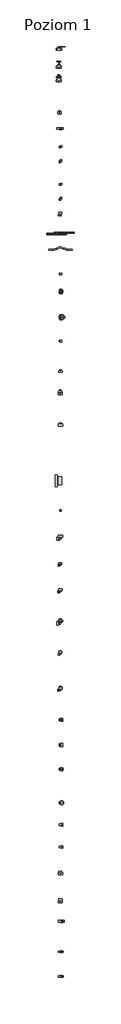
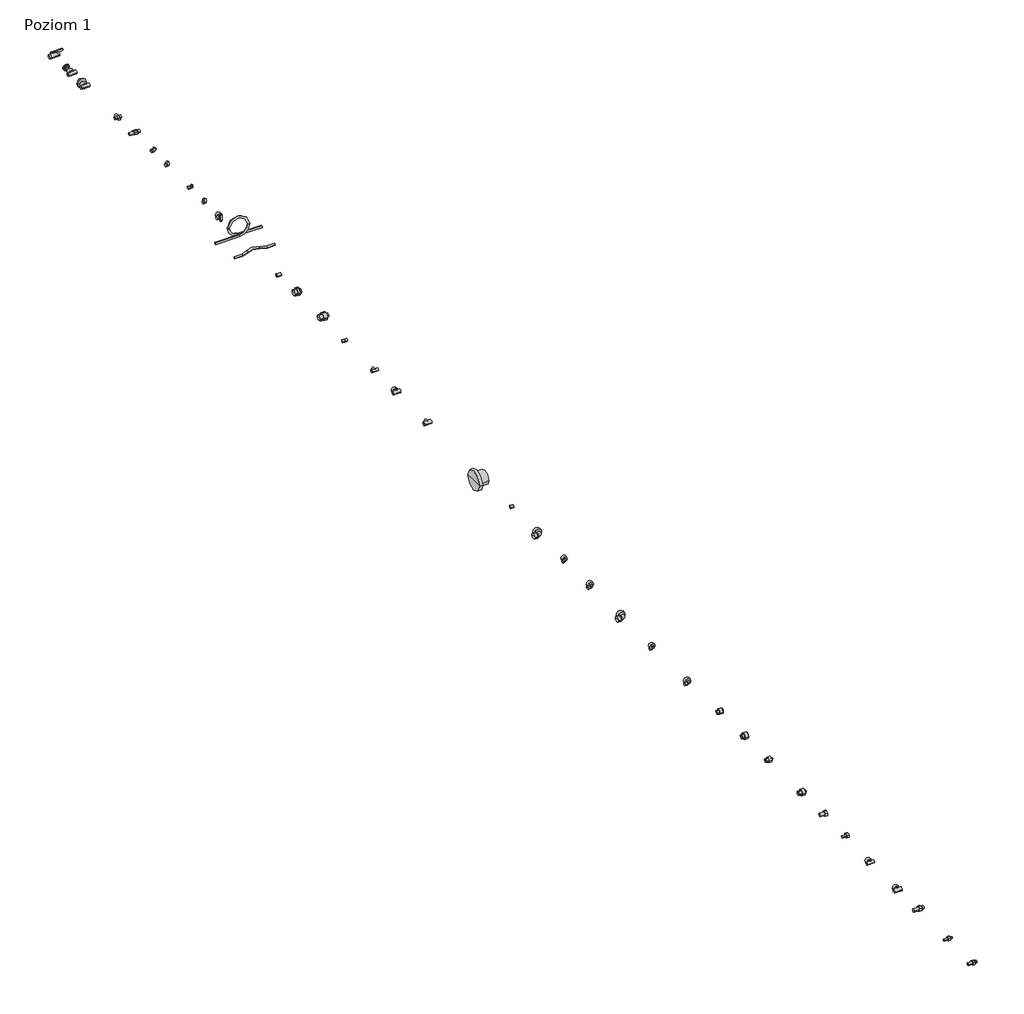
# One storey, incomplete: 35 pipe fittings, 3 valves.
"""IFC4 building model written with IfcOpenShell, lengths in millimetres."""

from ifc_helpers import new_model, si_unit, origin, place, context, project, spatial, transform, mapped, element, save
from components import pipe_fitting_f1c90eea, pipe_fitting_9086a7c6, pipe_fitting_2143d2fa, pipe_fitting_c30a6e07, pipe_fitting_eb173797, pipe_fitting_9455d8f2, pipe_fitting_613a564c, pipe_fitting_2de91ca1, pipe_fitting_89126435, pipe_fitting_2e6c01af, pipe_fitting_272f826c, pipe_fitting_fa644c43, pipe_fitting_fa37c8a6, pipe_fitting_0102d526, pipe_fitting_a57338f9, pipe_fitting_a43475a8, pipe_fitting_1dd2d78f, pipe_fitting_afdd248d, pipe_fitting_05d3e583, pipe_fitting_d33e2bb3, pipe_fitting_ecdcb8ec, pipe_fitting_666acf45, pipe_fitting_25df7227, pipe_fitting_1fe816a6, pipe_fitting_26aceb69, pipe_fitting_9ada75cd, pipe_fitting_8b290e61, pipe_fitting_83ee3611, pipe_fitting_663bc164, pipe_fitting_021c3819, pipe_fitting_e24b1700, pipe_fitting_a18f5325, pipe_fitting_e2bcef58, pipe_fitting_964f8dcf, pipe_fitting_8554a55d, valve_cd258e7f, valve_e2585b80, valve_2c2c3ae2

model = new_model("IFC4")

# Units and contexts
model_context = context("Model", 3, world=origin())
ifc_project = project(units=[si_unit("LENGTHUNIT", "METRE", prefix="MILLI")], contexts=[model_context])

# Site, building, storey
site = spatial("IfcSite", under=ifc_project)
building = spatial("IfcBuilding", under=site)
storey = spatial("IfcBuildingStorey", under=building, Name="Poziom 1", Elevation=0.0)

# Pipe fittings
placement = place(None, origin())
pipe_fitting_shape = pipe_fitting_f1c90eea(model_context)
element("IfcPipeFitting", 1, ObjectType="KAN-therm PP czwórnik : KAN-therm PP czwórnik", at=placement, inside=storey, context=model_context, shape_type="MappedRepresentation", body=[
    mapped(pipe_fitting_shape, transform((-10208.1900675, 20825.1129686, 0.0), x_axis=(1.0, 0.0, 0.0), y_axis=(0.0, 1.0, 0.0), z_axis=(0.0, 0.0, 1.0))),
])
pipe_fitting_2_shape = pipe_fitting_9086a7c6(model_context)
element("IfcPipeFitting", 2, ObjectType="KAN-therm PP holender : KAN-therm PP holender", at=placement, inside=storey, context=model_context, shape_type="MappedRepresentation", body=[
    mapped(pipe_fitting_2_shape, transform((-10227.5471954, 20612.1845622, 0.0), x_axis=(1.0, 0.0, 0.0), y_axis=(0.0, 1.0, 0.0), z_axis=(0.0, 0.0, 1.0))),
])
pipe_fitting_3_shape = pipe_fitting_2143d2fa(model_context)
element("IfcPipeFitting", 3, ObjectType="KAN-therm PP kolano 45 : KAN-therm PP kolano 45", at=placement, inside=storey, context=model_context, shape_type="MappedRepresentation", body=[
    mapped(pipe_fitting_3_shape, transform((-10199.5591276, 20366.994276, 0.0), x_axis=(1.0, 0.0, 0.0), y_axis=(0.0, 1.0, 0.0), z_axis=(0.0, 0.0, 1.0))),
])
pipe_fitting_4_shape = pipe_fitting_c30a6e07(model_context)
element("IfcPipeFitting", 4, ObjectType="KAN-therm PP kolano 90 : KAN-therm PP kolano 90", at=placement, inside=storey, context=model_context, shape_type="MappedRepresentation", body=[
    mapped(pipe_fitting_4_shape, transform((-10195.5591276, 20173.4229974, 0.0), x_axis=(1.0, 0.0, 0.0), y_axis=(0.0, 1.0, 0.0), z_axis=(0.0, 0.0, 1.0))),
])
pipe_fitting_5_shape = pipe_fitting_eb173797(model_context)
element("IfcPipeFitting", 5, ObjectType="KAN-therm PP kolano nyplowe 45 : KAN-therm PP kolano nyplowe 45", at=placement, inside=storey, context=model_context, shape_type="MappedRepresentation", body=[
    mapped(pipe_fitting_5_shape, transform((-10197.5591276, 19866.8878307, 0.0), x_axis=(1.0, 0.0, 0.0), y_axis=(0.0, 1.0, 0.0), z_axis=(0.0, 0.0, 1.0))),
])
pipe_fitting_6_shape = pipe_fitting_9455d8f2(model_context)
element("IfcPipeFitting", 6, ObjectType="KAN-therm PP kolano nyplowe 90 : KAN-therm PP kolano nyplowe 90", at=placement, inside=storey, context=model_context, shape_type="MappedRepresentation", body=[
    mapped(pipe_fitting_6_shape, transform((-10195.5591276, 19670.0903641, 0.0), x_axis=(1.0, 0.0, 0.0), y_axis=(0.0, 1.0, 0.0), z_axis=(0.0, 0.0, 1.0))),
])
pipe_fitting_7_shape = pipe_fitting_613a564c(model_context)
element("IfcPipeFitting", 7, ObjectType="KAN-therm PP kolano z wieszakiem : KAN-therm PP kolano z wieszakiem", at=placement, inside=storey, context=model_context, shape_type="MappedRepresentation", body=[
    mapped(pipe_fitting_7_shape, transform((-10195.5591276, 19463.6143337, 0.0), x_axis=(1.0, 0.0, 0.0), y_axis=(0.0, 1.0, 0.0), z_axis=(0.0, 0.0, 1.0))),
])
pipe_fitting_8_shape = pipe_fitting_2de91ca1(model_context)
element("IfcPipeFitting", 8, ObjectType="KAN-therm PP kompensacja : KAN-therm PP kompensacja", at=placement, inside=storey, context=model_context, shape_type="MappedRepresentation", body=[
    mapped(pipe_fitting_8_shape, transform((-10195.5591276, 19206.7454835, 0.0), x_axis=(1.0, 0.0, 0.0), y_axis=(0.0, 1.0, 0.0), z_axis=(0.0, 0.0, 1.0))),
])
pipe_fitting_9_shape = pipe_fitting_89126435(model_context)
element("IfcPipeFitting", 9, ObjectType="KAN-therm PP mijanka : KAN-therm PP mijanka", at=placement, inside=storey, context=model_context, shape_type="MappedRepresentation", body=[
    mapped(pipe_fitting_9_shape, transform((-10195.5591276, 18999.0432651, 0.0), x_axis=(1.0, 0.0, 0.0), y_axis=(0.0, 1.0, 0.0), z_axis=(0.0, 0.0, 1.0))),
])
pipe_fitting_10_shape = pipe_fitting_2e6c01af(model_context)
element("IfcPipeFitting", 10, ObjectType="KAN-therm PP mufa gw z sześciokątem : KAN-therm PP mufa gw z sześciokątem", at=placement, inside=storey, context=model_context, shape_type="MappedRepresentation", body=[
    mapped(pipe_fitting_10_shape, transform((-10195.5591276, 18442.2725897, 0.0), x_axis=(1.0, 0.0, 0.0), y_axis=(0.0, 1.0, 0.0), z_axis=(0.0, 0.0, 1.0))),
])
pipe_fitting_11_shape = pipe_fitting_272f826c(model_context)
element("IfcPipeFitting", 11, ObjectType="KAN-therm PP mufa gz z sześciokątem : KAN-therm PP mufa gz z sześciokątem", at=placement, inside=storey, context=model_context, shape_type="MappedRepresentation", body=[
    mapped(pipe_fitting_11_shape, transform((-10195.5591276, 18102.27755, 0.0), x_axis=(1.0, 0.0, 0.0), y_axis=(0.0, 1.0, 0.0), z_axis=(0.0, 0.0, 1.0))),
])
pipe_fitting_12_shape = pipe_fitting_fa644c43(model_context)
element("IfcPipeFitting", 12, ObjectType="KAN-therm PP mufa : KAN-therm PP mufa", at=placement, inside=storey, context=model_context, shape_type="MappedRepresentation", body=[
    mapped(pipe_fitting_12_shape, transform((-10195.5591276, 18675.6017895, 0.0), x_axis=(1.0, 0.0, 0.0), y_axis=(0.0, 1.0, 0.0), z_axis=(0.0, 0.0, 1.0))),
])
pipe_fitting_13_shape = pipe_fitting_fa37c8a6(model_context)
element("IfcPipeFitting", 13, ObjectType="KAN-therm PP trojnik gz : KAN-therm PP trojnik gz", at=placement, inside=storey, context=model_context, shape_type="MappedRepresentation", body=[
    mapped(pipe_fitting_13_shape, transform((-10195.5591276, 17085.3324071, 0.0), x_axis=(1.0, 0.0, 0.0), y_axis=(0.0, 1.0, 0.0), z_axis=(0.0, 0.0, 1.0))),
])
pipe_fitting_14_shape = pipe_fitting_0102d526(model_context)
element("IfcPipeFitting", 14, ObjectType="KAN-therm PP trojnik redukcyjny : KAN-therm PP trojnik redukcyjny", at=placement, inside=storey, context=model_context, shape_type="MappedRepresentation", body=[
    mapped(pipe_fitting_14_shape, transform((-10195.5591276, 16667.77831, 0.0), x_axis=(1.0, 0.0, 0.0), y_axis=(0.0, 1.0, 0.0), z_axis=(0.0, 0.0, 1.0))),
])
pipe_fitting_15_shape = pipe_fitting_a57338f9(model_context)
element("IfcPipeFitting", 15, ObjectType="KAN-therm PP trojnik : KAN-therm PP trojnik", at=placement, inside=storey, context=model_context, shape_type="MappedRepresentation", body=[
    mapped(pipe_fitting_15_shape, transform((-10195.5591276, 17379.375028, 0.0), x_axis=(1.0, 0.0, 0.0), y_axis=(0.0, 1.0, 0.0), z_axis=(0.0, 0.0, 1.0))),
])
pipe_fitting_16_shape = pipe_fitting_a43475a8(model_context)
element("IfcPipeFitting", 16, ObjectType="KAN-therm PP tuleja 110 : KAN-therm PP tuleja 110", at=placement, inside=storey, context=model_context, shape_type="MappedRepresentation", body=[
    mapped(pipe_fitting_16_shape, transform((-10195.5591276, 15922.9520827, 0.0), x_axis=(1.0, 0.0, 0.0), y_axis=(0.0, 1.0, 0.0), z_axis=(0.0, 0.0, 1.0))),
])
pipe_fitting_17_shape = pipe_fitting_1dd2d78f(model_context)
element("IfcPipeFitting", 17, ObjectType="KAN-therm PP zaślepka : KAN-therm PP zaślepka", at=placement, inside=storey, context=model_context, shape_type="MappedRepresentation", body=[
    mapped(pipe_fitting_17_shape, transform((-10195.5591276, 15527.9684774, 0.0), x_axis=(1.0, 0.0, 0.0), y_axis=(0.0, 1.0, 0.0), z_axis=(0.0, 0.0, 1.0))),
])
pipe_fitting_18_shape = pipe_fitting_afdd248d(model_context)
element("IfcPipeFitting", 18, ObjectType="KAN-therm PP kolano gw 1 : KAN-therm PP kolano gw 1", at=placement, inside=storey, context=model_context, shape_type="MappedRepresentation", body=[
    mapped(pipe_fitting_18_shape, transform((-10195.5591276, 15151.3577656, 0.0), x_axis=(1.0, 0.0, 0.0), y_axis=(0.0, 1.0, 0.0), z_axis=(0.0, 0.0, 1.0))),
])
pipe_fitting_19_shape = pipe_fitting_05d3e583(model_context)
element("IfcPipeFitting", 19, ObjectType="KAN-therm PP kolano gw 1_2 : KAN-therm PP kolano gw 1_2", at=placement, inside=storey, context=model_context, shape_type="MappedRepresentation", body=[
    mapped(pipe_fitting_19_shape, transform((-10195.5591276, 14798.8967292, 0.0), x_axis=(1.0, 0.0, 0.0), y_axis=(0.0, 1.0, 0.0), z_axis=(0.0, 0.0, 1.0))),
])
pipe_fitting_20_shape = pipe_fitting_d33e2bb3(model_context)
element("IfcPipeFitting", 20, ObjectType="KAN-therm PP kolano gw 3_4 : KAN-therm PP kolano gw 3_4", at=placement, inside=storey, context=model_context, shape_type="MappedRepresentation", body=[
    mapped(pipe_fitting_20_shape, transform((-10195.5591276, 14446.4356928, 0.0), x_axis=(1.0, 0.0, 0.0), y_axis=(0.0, 1.0, 0.0), z_axis=(0.0, 0.0, 1.0))),
])
pipe_fitting_21_shape = pipe_fitting_ecdcb8ec(model_context)
element("IfcPipeFitting", 21, ObjectType="KAN-therm PP kolano gz 1 : KAN-therm PP kolano gz 1", at=placement, inside=storey, context=model_context, shape_type="MappedRepresentation", body=[
    mapped(pipe_fitting_21_shape, transform((-10195.5591276, 14023.4824492, 0.0), x_axis=(1.0, 0.0, 0.0), y_axis=(0.0, 1.0, 0.0), z_axis=(0.0, 0.0, 1.0))),
])
pipe_fitting_22_shape = pipe_fitting_666acf45(model_context)
element("IfcPipeFitting", 22, ObjectType="KAN-therm PP kolano gz 1_2 : KAN-therm PP kolano gz 1_2", at=placement, inside=storey, context=model_context, shape_type="MappedRepresentation", body=[
    mapped(pipe_fitting_22_shape, transform((-10195.5591276, 13615.3696702, 0.0), x_axis=(1.0, 0.0, 0.0), y_axis=(0.0, 1.0, 0.0), z_axis=(0.0, 0.0, 1.0))),
])
pipe_fitting_23_shape = pipe_fitting_25df7227(model_context)
element("IfcPipeFitting", 23, ObjectType="KAN-therm PP kolano gz 3_4 : KAN-therm PP kolano gz 3_4", at=placement, inside=storey, context=model_context, shape_type="MappedRepresentation", body=[
    mapped(pipe_fitting_23_shape, transform((-10195.5591276, 13136.7646839, 0.0), x_axis=(1.0, 0.0, 0.0), y_axis=(0.0, 1.0, 0.0), z_axis=(0.0, 0.0, 1.0))),
])
pipe_fitting_24_shape = pipe_fitting_1fe816a6(model_context)
element("IfcPipeFitting", 24, ObjectType="KAN-therm PP mufa gw 1_2 : KAN-therm PP mufa gw 1_2", at=placement, inside=storey, context=model_context, shape_type="MappedRepresentation", body=[
    mapped(pipe_fitting_24_shape, transform((-10195.5591276, 12739.7822535, 0.0), x_axis=(1.0, 0.0, 0.0), y_axis=(0.0, 1.0, 0.0), z_axis=(0.0, 0.0, 1.0))),
])
pipe_fitting_25_shape = pipe_fitting_26aceb69(model_context)
element("IfcPipeFitting", 25, ObjectType="KAN-therm PP mufa gw 3_4 : KAN-therm PP mufa gw 3_4", at=placement, inside=storey, context=model_context, shape_type="MappedRepresentation", body=[
    mapped(pipe_fitting_25_shape, transform((-10195.5591276, 12405.8717979, 0.0), x_axis=(1.0, 0.0, 0.0), y_axis=(0.0, 1.0, 0.0), z_axis=(0.0, 0.0, 1.0))),
])
pipe_fitting_26_shape = pipe_fitting_9ada75cd(model_context)
element("IfcPipeFitting", 26, ObjectType="KAN-therm PP mufa gz 1_2 : KAN-therm PP mufa gz 1_2", at=placement, inside=storey, context=model_context, shape_type="MappedRepresentation", body=[
    mapped(pipe_fitting_26_shape, transform((-10195.5591276, 12083.0916909, 0.0), x_axis=(1.0, 0.0, 0.0), y_axis=(0.0, 1.0, 0.0), z_axis=(0.0, 0.0, 1.0))),
])
pipe_fitting_27_shape = pipe_fitting_8b290e61(model_context)
element("IfcPipeFitting", 27, ObjectType="KAN-therm PP mufa gz 3_4 : KAN-therm PP mufa gz 3_4", at=placement, inside=storey, context=model_context, shape_type="MappedRepresentation", body=[
    mapped(pipe_fitting_27_shape, transform((-10195.5591276, 11637.8777502, 0.0), x_axis=(1.0, 0.0, 0.0), y_axis=(0.0, 1.0, 0.0), z_axis=(0.0, 0.0, 1.0))),
])
pipe_fitting_28_shape = pipe_fitting_83ee3611(model_context)
element("IfcPipeFitting", 28, ObjectType="KAN-therm PP półśrubunek 1 : KAN-therm PP półśrubunek 1", at=placement, inside=storey, context=model_context, shape_type="MappedRepresentation", body=[
    mapped(pipe_fitting_28_shape, transform((-10195.5591276, 11344.7785726, 0.0), x_axis=(1.0, 0.0, 0.0), y_axis=(0.0, 1.0, 0.0), z_axis=(0.0, 0.0, 1.0))),
])
pipe_fitting_29_shape = pipe_fitting_663bc164(model_context)
element("IfcPipeFitting", 29, ObjectType="KAN-therm PP półśrubunek 3_4 : KAN-therm PP półśrubunek 3_4", at=placement, inside=storey, context=model_context, shape_type="MappedRepresentation", body=[
    mapped(pipe_fitting_29_shape, transform((-10195.5591276, 11047.9692788, 0.0), x_axis=(1.0, 0.0, 0.0), y_axis=(0.0, 1.0, 0.0), z_axis=(0.0, 0.0, 1.0))),
])
pipe_fitting_30_shape = pipe_fitting_021c3819(model_context)
element("IfcPipeFitting", 30, ObjectType="KAN-therm PP śrubunek 1 : KAN-therm PP śrubunek 1", at=placement, inside=storey, context=model_context, shape_type="MappedRepresentation", body=[
    mapped(pipe_fitting_30_shape, transform((-10209.0079042, 10057.3682607, 0.0), x_axis=(1.0, 0.0, 0.0), y_axis=(0.0, 1.0, 0.0), z_axis=(0.0, 0.0, 1.0))),
])
pipe_fitting_31_shape = pipe_fitting_e24b1700(model_context)
element("IfcPipeFitting", 31, ObjectType="KAN-therm PP śrubunek 1_2 : KAN-therm PP śrubunek 1_2", at=placement, inside=storey, context=model_context, shape_type="MappedRepresentation", body=[
    mapped(pipe_fitting_31_shape, transform((-10209.0079042, 9652.9655979, 0.0), x_axis=(1.0, 0.0, 0.0), y_axis=(0.0, 1.0, 0.0), z_axis=(0.0, 0.0, 1.0))),
])
pipe_fitting_32_shape = pipe_fitting_a18f5325(model_context)
element("IfcPipeFitting", 32, ObjectType="KAN-therm PP śrubunek 3_4 : KAN-therm PP śrubunek 3_4", at=placement, inside=storey, context=model_context, shape_type="MappedRepresentation", body=[
    mapped(pipe_fitting_32_shape, transform((-10209.0079042, 9326.4753747, 0.0), x_axis=(1.0, 0.0, 0.0), y_axis=(0.0, 1.0, 0.0), z_axis=(0.0, 0.0, 1.0))),
])
pipe_fitting_33_shape = pipe_fitting_e2bcef58(model_context)
element("IfcPipeFitting", 33, ObjectType="KAN-therm PP trojnik gw 1_2 : KAN-therm PP trojnik gw 1_2", at=placement, inside=storey, context=model_context, shape_type="MappedRepresentation", body=[
    mapped(pipe_fitting_33_shape, transform((-10195.5591276, 10691.7981262, 0.0), x_axis=(1.0, 0.0, 0.0), y_axis=(0.0, 1.0, 0.0), z_axis=(0.0, 0.0, 1.0))),
])
pipe_fitting_34_shape = pipe_fitting_964f8dcf(model_context)
element("IfcPipeFitting", 34, ObjectType="KAN-therm PP trojnik gw 3_4 : KAN-therm PP trojnik gw 3_4", at=placement, inside=storey, context=model_context, shape_type="MappedRepresentation", body=[
    mapped(pipe_fitting_34_shape, transform((-10195.5591276, 10320.786509, 0.0), x_axis=(1.0, 0.0, 0.0), y_axis=(0.0, 1.0, 0.0), z_axis=(0.0, 0.0, 1.0))),
])
pipe_fitting_35_shape = pipe_fitting_8554a55d(model_context)
element("IfcPipeFitting", 35, ObjectType="KAN-therm PP redukcja : KAN-therm PP redukcja", at=placement, inside=storey, context=model_context, shape_type="MappedRepresentation", body=[
    mapped(pipe_fitting_35_shape, transform((-10197.0591276, 17783.0838991, 0.0), x_axis=(1.0, 0.0, 0.0), y_axis=(0.0, 1.0, 0.0), z_axis=(0.0, 0.0, 1.0))),
])

# Valves
valve_shape = valve_cd258e7f(model_context)
element("IfcValve", 36, ObjectType="KAN-therm PP zawór odcinający grzybkowy : KAN-therm PP zawór odcinający grzybkowy", at=placement, inside=storey, context=model_context, shape_type="MappedRepresentation", body=[
    mapped(valve_shape, transform((-10217.2690372, 21427.4332518, 0.0), x_axis=(1.0, 0.0, 0.0), y_axis=(0.0, 1.0, 0.0), z_axis=(0.0, 0.0, 1.0))),
])
valve_2_shape = valve_e2585b80(model_context)
element("IfcValve", 37, ObjectType="KAN-therm PP zawór kulowy : KAN-therm PP zawór kulowy", at=placement, inside=storey, context=model_context, shape_type="MappedRepresentation", body=[
    mapped(valve_2_shape, transform((-10217.2690372, 21669.3403968, 0.0), x_axis=(1.0, 0.0, 0.0), y_axis=(0.0, 1.0, 0.0), z_axis=(0.0, 0.0, 1.0))),
])
valve_3_shape = valve_2c2c3ae2(model_context)
element("IfcValve", 38, ObjectType="KAN-therm PP zawór odcinający grzybkowy podtynkowy z maskownicą : KAN-therm PP zawór odcinający grzybkowy podtynkowy z maskownicą", at=placement, inside=storey, context=model_context, shape_type="MappedRepresentation", body=[
    mapped(valve_3_shape, transform((-10217.2690372, 21252.1978244, 0.0), x_axis=(1.0, 0.0, 0.0), y_axis=(0.0, 1.0, 0.0), z_axis=(0.0, 0.0, 1.0))),
])

save(model, "model.ifc")
